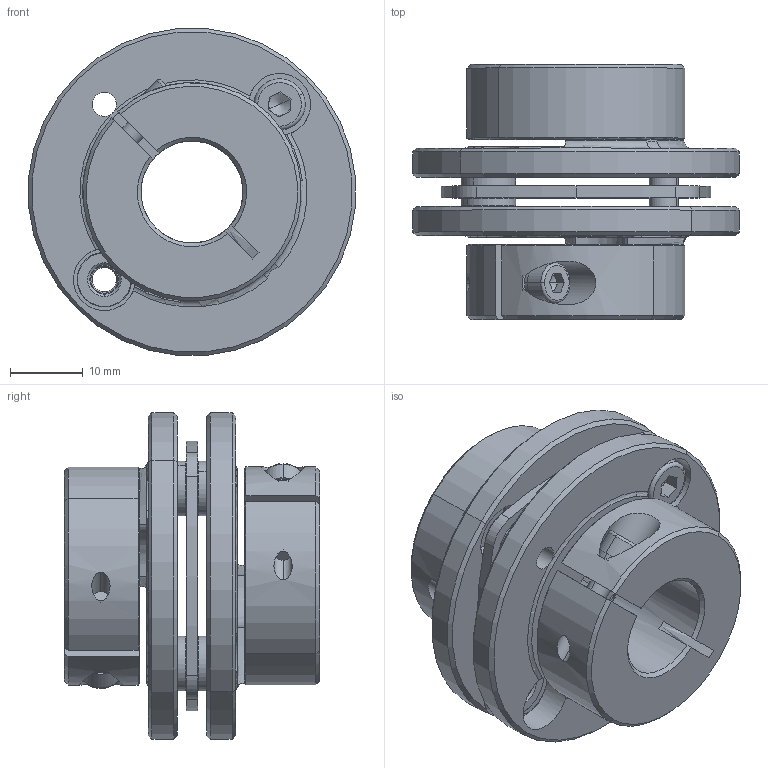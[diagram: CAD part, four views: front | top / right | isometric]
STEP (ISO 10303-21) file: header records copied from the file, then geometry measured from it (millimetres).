
FILE_DESCRIPTION (( 'STEP AP203' ), '1' );
FILE_NAME ('LE1-B-D45L35-14-14.STEP', '2021-11-01T03:19:46', ( '' ), ( '' ), 'SwSTEP 2.0', 'SolidWorks 2018', '' );
FILE_SCHEMA (( 'CONFIG_CONTROL_DESIGN' ));
Length unit declared in the file: millimetre
Products named in the file (1): LE1-B-D45L35-14-14
Bounding box: 44.83 x 35 x 44.83 mm (x, y, z)
Volume: 23616.3 mm3; surface area: 15033.9 mm2
Topology: 1 solids, 3 shells, 311 faces, 775 edges, 480 vertices
Faces by surface type: cylinder 115, plane 98, cone 82, torus 14, bspline 2
Entity records: 9750 total; most frequent: CARTESIAN_POINT 2009, DIRECTION 1741, ORIENTED_EDGE 1534, EDGE_CURVE 767, AXIS2_PLACEMENT_3D 712, VERTEX_POINT 480, CIRCLE 402, EDGE_LOOP 363
